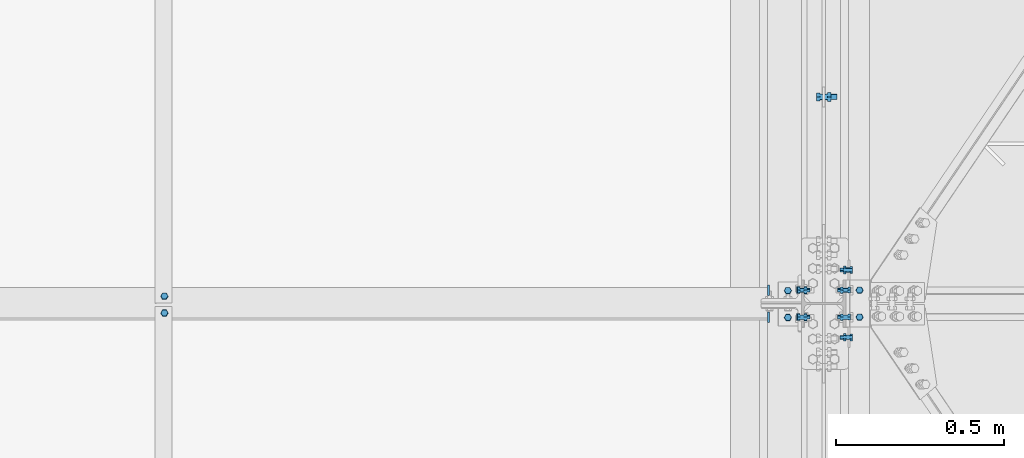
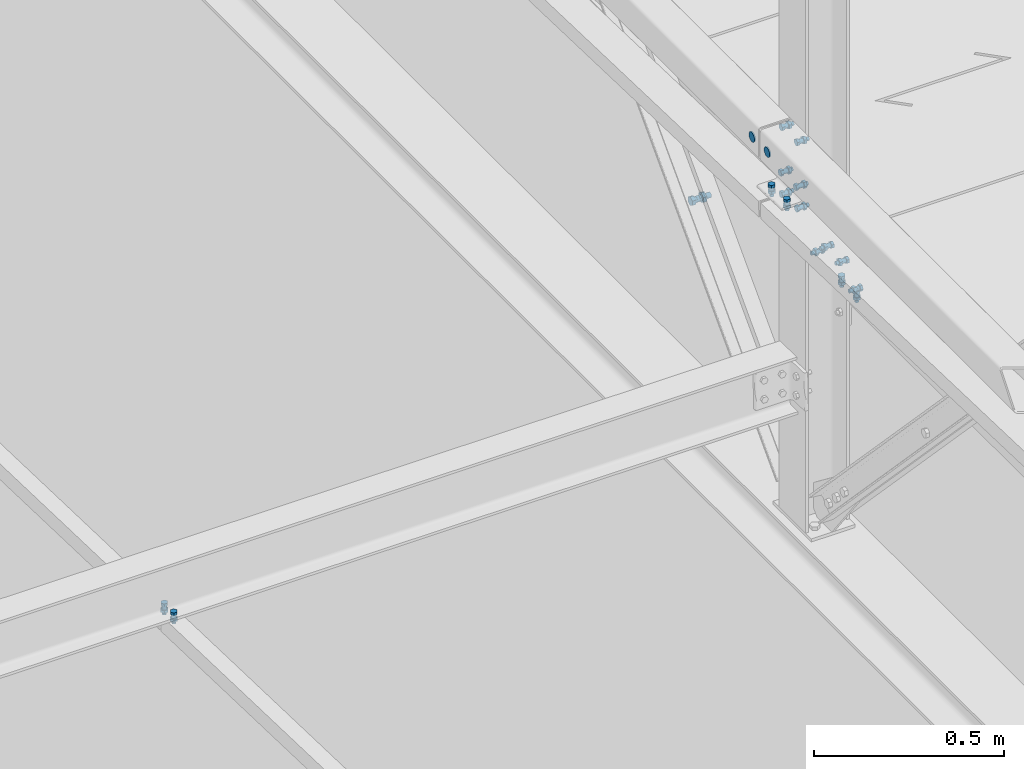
# One storey, part 280 of 362: 19 mechanical fasteners.
"""IFC2X3 building model written with IfcOpenShell, lengths in millimetres."""

import ifcopenshell
import ifcopenshell.guid

model = None  # the IFC model being written
_history = None  # IfcOwnerHistory: only IFC2X3 demands one
_inside = {}  # id of a spatial element -> (the spatial element, [elements in it])
_under = {}  # id of a project, library or spatial element -> (it, [spatial elements below it])
_declared = {}  # id of a project -> (the project, [libraries it declares])
_typed = {}  # id of a type object -> (the type object, [elements of that type])
_made_of = {}  # id of a material, layer set ... -> (it, [elements and type objects made of it])


def new_model(schema):
    """Start an empty IFC model of exactly this schema.

    Asked for "IFC4X3", IfcOpenShell would pick the latest addendum, in which some entities
    have other attributes; the version numbers below select the first issue.
    IFC2X3 requires an IfcOwnerHistory on every rooted entity: one is made here for all.
    """
    global model, _history
    if schema == "IFC4X3":
        model = ifcopenshell.file(schema_version=(4, 3, 0, 0))
    else:
        model = ifcopenshell.file(schema=schema)
    _inside.clear()
    _under.clear()
    _declared.clear()
    _typed.clear()
    _made_of.clear()
    _history = None
    if model.schema == "IFC2X3":
        org = make("IfcOrganization", Name="unknown")
        user = make(
            "IfcPersonAndOrganization",
            ThePerson=make("IfcPerson", FamilyName="unknown"),
            TheOrganization=org,
        )
        app = make(
            "IfcApplication",
            ApplicationDeveloper=org,
            Version="unknown",
            ApplicationFullName="unknown",
            ApplicationIdentifier="unknown",
        )
        _history = make(
            "IfcOwnerHistory",
            OwningUser=user,
            OwningApplication=app,
            ChangeAction="ADDED",
            CreationDate=0,
        )
    return model


def make(cls, **values):
    """One entity of the class cls with the attributes given. An attribute that is None is left unset."""
    return model.create_entity(
        cls, **{name: value for name, value in values.items() if value is not None}
    )


def rooted(cls, **values):
    """An entity with a GlobalId (a new one), such as an element, a storey or a relation."""
    return make(cls, GlobalId=ifcopenshell.guid.new(), OwnerHistory=_history, **values)


def si_unit(unit_type, name, prefix=None):
    """IfcSIUnit, for example si_unit("LENGTHUNIT", "METRE", prefix="MILLI")."""
    return make("IfcSIUnit", UnitType=unit_type, Prefix=prefix, Name=name)


def assignment(units):
    """IfcUnitAssignment: the units of a project."""
    return None if units is None else make("IfcUnitAssignment", Units=units)


def point(xyz):
    """IfcCartesianPoint."""
    return None if xyz is None else make("IfcCartesianPoint", Coordinates=xyz)


def direction(xyz):
    """IfcDirection."""
    return None if xyz is None else make("IfcDirection", DirectionRatios=xyz)


def frame(location, z_axis=None, x_axis=None):
    """IfcAxis2Placement3D, a coordinate frame: its origin and axes. An axis left out is left unset."""
    return make(
        "IfcAxis2Placement3D",
        Location=point(location),
        Axis=direction(z_axis),
        RefDirection=direction(x_axis),
    )


def frame_2d(location, x_axis=None):
    """IfcAxis2Placement2D, a coordinate frame in the plane: its origin and x axis."""
    return make(
        "IfcAxis2Placement2D", Location=point(location), RefDirection=direction(x_axis)
    )


def origin_with_axes():
    """The frame at (0, 0, 0) with the z axis (0, 0, 1) and the x axis (1, 0, 0) written out."""
    return frame((0.0, 0.0, 0.0), z_axis=(0.0, 0.0, 1.0), x_axis=(1.0, 0.0, 0.0))


def origin_2d_with_axis():
    """The frame at (0, 0) in the plane with the x axis (1, 0) written out."""
    return frame_2d((0.0, 0.0), x_axis=(1.0, 0.0))


def place(relative_to, where):
    """IfcLocalPlacement: puts the frame where relative to a parent placement (None: the world)."""
    return make(
        "IfcLocalPlacement", PlacementRelTo=relative_to, RelativePlacement=where
    )


def context(
    kind, dimensions, precision=None, world=None, true_north=None, identifier=None
):
    """IfcGeometricRepresentationContext, for example the 3D "Model" context."""
    return make(
        "IfcGeometricRepresentationContext",
        ContextIdentifier=identifier,
        ContextType=kind,
        CoordinateSpaceDimension=dimensions,
        Precision=precision,
        WorldCoordinateSystem=world,
        TrueNorth=true_north,
    )


def subcontext(parent, identifier, kind, view, scale=None):
    """IfcGeometricRepresentationSubContext, for example "Body" below "Model"."""
    return make(
        "IfcGeometricRepresentationSubContext",
        ContextIdentifier=identifier,
        ContextType=kind,
        ParentContext=parent,
        TargetScale=scale,
        TargetView=view,
    )


def project(units=None, contexts=None):
    """IfcProject with its units and contexts."""
    return rooted(
        "IfcProject",
        Name="project",
        RepresentationContexts=contexts,
        UnitsInContext=assignment(units),
    )


def spatial(cls, under=None, at=None, **own):
    """A site, building, storey or space (cls), placed at a placement, below another one or the project."""
    s = rooted(cls, ObjectPlacement=at, **own)
    if under is not None:
        _under.setdefault(under.id(), (under, []))[1].append(s)
    return s


def polyline(points):
    """IfcPolyline through the points."""
    return make("IfcPolyline", Points=[point(p) for p in points])


def profile(cls, at=None, kind="AREA", **sizes):
    """A parametric profile (cls). Its sizes go by their IFC names, for example OverallWidth=200.0."""
    return make(cls, ProfileType=kind, Position=at, **sizes)


def circle(**sizes):
    """IfcCircleProfileDef."""
    return profile("IfcCircleProfileDef", **sizes)


def outline(outer, holes=None, kind="AREA"):
    """IfcArbitraryClosedProfileDef: a profile drawn as a closed curve; with holes, ...WithVoids."""
    if holes is None:
        return make("IfcArbitraryClosedProfileDef", ProfileType=kind, OuterCurve=outer)
    return make(
        "IfcArbitraryProfileDefWithVoids",
        ProfileType=kind,
        OuterCurve=outer,
        InnerCurves=holes,
    )


def extrude(swept, where, along, depth):
    """IfcExtrudedAreaSolid: the profile swept, set in the frame where, extruded along a direction by depth."""
    return make(
        "IfcExtrudedAreaSolid",
        SweptArea=swept,
        Position=where,
        ExtrudedDirection=direction(along),
        Depth=depth,
    )


def shape(context_of_items, identifier, shape_type, items):
    """IfcShapeRepresentation: the items that make up one representation, for example the "Body"."""
    return make(
        "IfcShapeRepresentation",
        ContextOfItems=context_of_items,
        RepresentationIdentifier=identifier,
        RepresentationType=shape_type,
        Items=items,
    )


def source(mapping_origin, context_of_items, identifier, shape_type, items):
    """IfcRepresentationMap: a shape defined once, which mapped items show again and again."""
    return make(
        "IfcRepresentationMap",
        MappingOrigin=mapping_origin,
        MappedRepresentation=shape(context_of_items, identifier, shape_type, items),
    )


def transform(
    local_origin,
    x_axis=None,
    y_axis=None,
    z_axis=None,
    scale=None,
    scale2=None,
    scale3=None,
    uniform=True,
):
    """IfcCartesianTransformationOperator3D, or its non-uniform kind. x_axis, y_axis, z_axis: its Axis1, 2, 3."""
    if uniform:
        return make(
            "IfcCartesianTransformationOperator3D",
            Axis1=direction(x_axis),
            Axis2=direction(y_axis),
            LocalOrigin=point(local_origin),
            Scale=scale,
            Axis3=direction(z_axis),
        )
    return make(
        "IfcCartesianTransformationOperator3DnonUniform",
        Axis1=direction(x_axis),
        Axis2=direction(y_axis),
        LocalOrigin=point(local_origin),
        Scale=scale,
        Axis3=direction(z_axis),
        Scale2=scale2,
        Scale3=scale3,
    )


def mapped(mapping_source, mapping_target):
    """IfcMappedItem: shows the shape of a source again, moved by a transform."""
    return make(
        "IfcMappedItem", MappingSource=mapping_source, MappingTarget=mapping_target
    )


def material(Name=None, Category=None):
    """IfcMaterial."""
    return make("IfcMaterial", Name=Name, Category=Category)


def made_of(thing, what):
    """Note that an element or type object is made of a material, layer set ...; save() writes the relation."""
    if what is not None:
        _made_of.setdefault(what.id(), (what, []))[1].append(thing)
    return thing


def type_object(cls, material=None, **own):
    """A type object (cls), such as IfcWallType, which elements share."""
    return made_of(rooted(cls, **own), material)


def element(
    cls,
    number,
    at=None,
    inside=None,
    cuts=None,
    type_object=None,
    material=None,
    context=None,
    identifier="Body",
    shape_type=None,
    held_by="IfcProductDefinitionShape",
    body=None,
    shapes=None,
    **own,
):
    """One element of the class cls, such as IfcWall. Its Tag is "e" and its number.

    at: its placement. inside: the storey or other place that contains it. cuts: it is an
    opening in that element (IfcRelVoidsElement). A single representation is given by context,
    identifier, shape_type and body (its items); several are given by shapes. held_by: the class
    of the entity that holds the representations. save() writes the other relations.
    """
    e = rooted(cls, Tag="e%d" % number, ObjectPlacement=at, **own)
    if body is not None:
        shapes = [shape(context, identifier, shape_type, body)]
    if shapes is not None:
        e.Representation = make(held_by, Representations=shapes)
    if inside is not None:
        _inside.setdefault(inside.id(), (inside, []))[1].append(e)
    if cuts is not None:
        rooted(
            "IfcRelVoidsElement", RelatingBuildingElement=cuts, RelatedOpeningElement=e
        )
    if type_object is not None:
        _typed.setdefault(type_object.id(), (type_object, []))[1].append(e)
    return made_of(e, material)


def aggregate(whole, parts):
    """IfcRelAggregates: a whole, such as a stair, and the parts it consists of."""
    return rooted("IfcRelAggregates", RelatingObject=whole, RelatedObjects=parts)


def save(model, path):
    """Write the relations noted so far, then the file.

    IfcRelAggregates (storeys below a building ...), IfcRelContainedInSpatialStructure (elements
    in a storey), IfcRelDefinesByType, IfcRelAssociatesMaterial and IfcRelDeclares: one each for
    every whole, place, type object, material and project.
    """
    for whole, parts in _under.values():
        aggregate(whole, parts)
    for where, things in _inside.values():
        rooted(
            "IfcRelContainedInSpatialStructure",
            RelatedElements=things,
            RelatingStructure=where,
        )
    for kind, things in _typed.values():
        rooted("IfcRelDefinesByType", RelatedObjects=things, RelatingType=kind)
    for what, things in _made_of.values():
        rooted("IfcRelAssociatesMaterial", RelatedObjects=things, RelatingMaterial=what)
    for by, libraries in _declared.values():
        rooted("IfcRelDeclares", RelatingContext=by, RelatedDefinitions=libraries)
    model.write(path)


model = new_model("IFC2X3")

# Units and contexts
model_context = context("Model", 3, precision=1e-05, world=origin_with_axes())
body_context = subcontext(model_context, "Body", "Model", "MODEL_VIEW")
ifc_project = project(units=[si_unit("LENGTHUNIT", "METRE", prefix="MILLI"), si_unit("AREAUNIT", "SQUARE_METRE"), si_unit("VOLUMEUNIT", "CUBIC_METRE"), si_unit("MASSUNIT", "GRAM", prefix="KILO"), si_unit("TIMEUNIT", "SECOND"), si_unit("PLANEANGLEUNIT", "RADIAN"), si_unit("SOLIDANGLEUNIT", "STERADIAN"), si_unit("THERMODYNAMICTEMPERATUREUNIT", "DEGREE_CELSIUS"), si_unit("LUMINOUSINTENSITYUNIT", "LUMEN")], contexts=[model_context])

# Site, building, storey
site_placement = place(None, origin_with_axes())
site = spatial("IfcSite", under=ifc_project, at=site_placement, Name="Undefined", CompositionType="ELEMENT")
building_placement = place(site_placement, origin_with_axes())
building = spatial("IfcBuilding", under=site, at=building_placement, Name="Undefined", CompositionType="ELEMENT")
storey_placement = place(building_placement, origin_with_axes())
storey = spatial("IfcBuildingStorey", under=building, at=storey_placement, Name="Undefined", CompositionType="ELEMENT", Elevation=0.0)

# Mechanical fasteners
ifc_material_1 = material(Name="8.8-SB-ZINGUE")
mechanical_fastener_type = type_object("IfcMechanicalFastenerType", Name="Bolt assembly")
shared_shape_1 = source(origin_with_axes(), body_context, "Body", "SweptSolid", [
    extrude(circle(Radius=9.0, at=origin_2d_with_axis()), frame((0.0, -10.9000000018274, 0.0), z_axis=(0.0, 1.0, 0.0), x_axis=(1.0, 0.0, 0.0)), (0.0, 0.0, 1.0), 6.0),
    extrude(circle(Radius=9.0, at=origin_2d_with_axis()), frame((0.0, 4.9000000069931, 0.0), z_axis=(0.0, 1.0, 0.0), x_axis=(1.0, 0.0, 0.0)), (0.0, 0.0, 1.0), 6.1),
    extrude(circle(Radius=9.0, at=origin_2d_with_axis()), frame((0.0, -3.99999923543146, 0.0), z_axis=(0.0, 1.0, 0.0), x_axis=(1.0, 0.0, 0.0)), (0.0, 0.0, 1.0), 8.0),
    extrude(outline(polyline([(13.85640646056, 0.0), (6.92820323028, 12.0000000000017), (-6.92820323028, 12.0000000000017), (-13.85640646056, 0.0), (-6.92820323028, -12.0000000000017), (6.92820323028, -12.0000000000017), (13.85640646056, 0.0)])), frame((0.0, -21.5600000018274, 0.0), z_axis=(0.0, 1.0, 0.0), x_axis=(1.0, 0.0, 0.0)), (0.0, 0.0, 1.0), 10.56),
    extrude(circle(Radius=8.0, at=origin_2d_with_axis()), frame((0.0, -11.0000000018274, 0.0), z_axis=(0.0, 1.0, 0.0), x_axis=(1.0, 0.0, 0.0)), (0.0, 0.0, 1.0), 50.0),
    extrude(outline(polyline([(15.3344231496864, 0.0), (7.6672115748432, 13.2800000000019), (-7.6672115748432, 13.2800000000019), (-15.3344231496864, 0.0), (-7.6672115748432, -13.2800000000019), (7.6672115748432, -13.2800000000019), (15.3344231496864, 0.0)])), frame((0.0, 11.0000000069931, 0.0), z_axis=(0.0, 1.0, 0.0), x_axis=(1.0, 0.0, 0.0)), (0.0, 0.0, 1.0), 10.56),
])
mechanical_fastener_1_placement = place(storey_placement, frame((23470.0, 8214.72861217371, 7894.81795332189), z_axis=(0.0, 1.0, 0.0), x_axis=(0.0, 0.0, 1.0)))
element("IfcMechanicalFastener", 1, at=mechanical_fastener_1_placement, inside=storey, type_object=mechanical_fastener_type, material=ifc_material_1, Name="Bolt assembly", NominalDiameter=16.0, NominalLength=50.0, context=body_context, shape_type="MappedRepresentation", body=[
    mapped(shared_shape_1, transform((0.0, 0.0, 0.0))),
])
shared_shape_2 = source(origin_with_axes(), body_context, "Body", "SweptSolid", [
    extrude(circle(Radius=7.0, at=origin_2d_with_axis()), frame((0.0, -7.9, 0.0), z_axis=(0.0, 1.0, 0.0), x_axis=(1.0, 0.0, 0.0)), (0.0, 0.0, 1.0), 8.0),
    extrude(circle(Radius=7.0, at=origin_2d_with_axis()), frame((0.0, -0.100011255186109, 0.0), z_axis=(0.0, 1.0, 0.0), x_axis=(1.0, 0.0, 0.0)), (0.0, 0.0, 1.0), 5.1),
    extrude(outline(polyline([(10.39230484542, 0.0), (5.19615242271, 9.00000000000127), (-5.19615242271, 9.00000000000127), (-10.39230484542, 0.0), (-5.19615242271, -9.00000000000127), (5.19615242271, -9.00000000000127), (10.39230484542, 0.0)])), frame((0.0, -15.92, 0.0), z_axis=(0.0, 1.0, 0.0), x_axis=(1.0, 0.0, 0.0)), (0.0, 0.0, 1.0), 7.92),
    extrude(circle(Radius=6.0, at=origin_2d_with_axis()), frame((0.0, -8.0, 0.0), z_axis=(0.0, 1.0, 0.0), x_axis=(1.0, 0.0, 0.0)), (0.0, 0.0, 1.0), 30.0),
    extrude(outline(polyline([(11.5008173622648, 0.0), (5.7504086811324, 9.96000000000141), (-5.7504086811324, 9.96000000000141), (-11.5008173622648, 0.0), (-5.7504086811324, -9.96000000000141), (5.7504086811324, -9.96000000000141), (11.5008173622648, 0.0)])), frame((0.0, 5.0, 0.0), z_axis=(0.0, 1.0, 0.0), x_axis=(1.0, 0.0, 0.0)), (0.0, 0.0, 1.0), 7.92),
])
for number, where, z_axis, x_axis, name in (
    (2, (21510.0000126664, 7572.18534571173, 7631.94559920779), (0.0, -0.999506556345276, 0.031410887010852), (-1.0, 0.0, 0.0), "Bolt assembly"),
    (3, (21510.0000126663, 7622.16464019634, 7630.37491363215), (0.0, -0.999506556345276, 0.031410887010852), (-1.0, 0.0, 0.0), "Bolt assembly"),
):
    element("IfcMechanicalFastener", number, at=place(storey_placement, frame(where, z_axis=z_axis, x_axis=x_axis)), inside=storey, type_object=mechanical_fastener_type, material=ifc_material_1, Name=name, NominalDiameter=12.0, NominalLength=30.0, context=body_context, shape_type="MappedRepresentation", body=[
        mapped(shared_shape_2, transform((0.0, 0.0, 0.0))),
    ])
shared_shape_3 = source(origin_with_axes(), body_context, "Body", "SweptSolid", [
    extrude(circle(Radius=7.0, at=origin_2d_with_axis()), frame((0.0, -4.90000000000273, 0.0), z_axis=(0.0, 1.0, 0.0), x_axis=(1.0, 0.0, 0.0)), (0.0, 0.0, 1.0), 5.0),
    extrude(circle(Radius=7.0, at=origin_2d_with_axis()), frame((0.0, -0.100011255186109, 0.0), z_axis=(0.0, 1.0, 0.0), x_axis=(1.0, 0.0, 0.0)), (0.0, 0.0, 1.0), 7.1),
    extrude(outline(polyline([(10.39230484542, 0.0), (5.19615242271, 9.00000000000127), (-5.19615242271, 9.00000000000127), (-10.39230484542, 0.0), (-5.19615242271, -9.00000000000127), (5.19615242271, -9.00000000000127), (10.39230484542, 0.0)])), frame((0.0, -12.9200004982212, 0.0), z_axis=(0.0, 1.0, 0.0), x_axis=(1.0, 0.0, 0.0)), (0.0, 0.0, 1.0), 7.92),
    extrude(circle(Radius=6.0, at=origin_2d_with_axis()), frame((0.0, -5.00000000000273, 0.0), z_axis=(0.0, 1.0, 0.0), x_axis=(1.0, 0.0, 0.0)), (0.0, 0.0, 1.0), 30.0),
    extrude(outline(polyline([(11.5008173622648, 0.0), (5.7504086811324, 9.96000000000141), (-5.7504086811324, 9.96000000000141), (-11.5008173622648, 0.0), (-5.7504086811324, -9.96000000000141), (5.7504086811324, -9.96000000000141), (11.5008173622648, 0.0)])), frame((0.0, 7.0, 0.0), z_axis=(0.0, 1.0, 0.0), x_axis=(1.0, 0.0, 0.0)), (0.0, 0.0, 1.0), 7.92),
])
for number, where, z_axis, x_axis, name in (
    (4, (23576.49994422, 7639.99999998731, 7950.00000000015), (0.0, -1.0, 0.0), (-1.0, 0.0, 0.0), "Bolt assembly"),
    (5, (23576.49994422, 7559.99999998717, 7950.00000000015), (0.0, -1.0, 0.0), (-1.0, 0.0, 0.0), "Bolt assembly"),
):
    element("IfcMechanicalFastener", number, at=place(storey_placement, frame(where, z_axis=z_axis, x_axis=x_axis)), inside=storey, type_object=mechanical_fastener_type, material=ifc_material_1, Name=name, NominalDiameter=12.0, NominalLength=30.0, context=body_context, shape_type="MappedRepresentation", body=[
        mapped(shared_shape_3, transform((0.0, 0.0, 0.0))),
    ])
shared_shape_4 = source(origin_with_axes(), body_context, "Body", "SweptSolid", [
    extrude(circle(Radius=7.0, at=origin_2d_with_axis()), frame((0.0, -0.108112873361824, 0.0), z_axis=(0.0, 1.0, 0.0), x_axis=(1.0, 0.0, 0.0)), (0.0, 0.0, 1.0), 5.1),
    extrude(circle(Radius=7.0, at=origin_2d_with_axis()), frame((0.0, -6.4, 0.0), z_axis=(0.0, 1.0, 0.0), x_axis=(1.0, 0.0, 0.0)), (0.0, 0.0, 1.0), 6.0),
    extrude(outline(polyline([(10.39230484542, 0.0), (5.19615242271, 9.00000000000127), (-5.19615242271, 9.00000000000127), (-10.39230484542, 0.0), (-5.19615242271, -9.00000000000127), (5.19615242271, -9.00000000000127), (10.39230484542, 0.0)])), frame((0.0, -14.42, 0.0), z_axis=(0.0, 1.0, 0.0), x_axis=(1.0, 0.0, 0.0)), (0.0, 0.0, 1.0), 7.92),
    extrude(circle(Radius=6.0, at=origin_2d_with_axis()), frame((0.0, -6.5, 0.0), z_axis=(0.0, 1.0, 0.0), x_axis=(1.0, 0.0, 0.0)), (0.0, 0.0, 1.0), 30.0),
    extrude(outline(polyline([(11.5008173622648, 0.0), (5.7504086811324, 9.96000000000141), (-5.7504086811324, 9.96000000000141), (-11.5008173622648, 0.0), (-5.7504086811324, -9.96000000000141), (5.7504086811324, -9.96000000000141), (11.5008173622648, 0.0)])), frame((0.0, 4.99188712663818, 0.0), z_axis=(0.0, 1.0, 0.0), x_axis=(1.0, 0.0, 0.0)), (0.0, 0.0, 1.0), 7.92),
])
for number, where, z_axis, x_axis, name in (
    (6, (23541.4918295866, 7699.99999998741, 8015.00000000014), (0.0, 0.0, -1.0), (0.0, -1.0, 0.0), "Bolt assembly"),
    (7, (23541.4918295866, 7499.99999998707, 8015.00000000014), (0.0, 0.0, 1.0), (0.0, 1.0, 0.0), "Bolt assembly"),
):
    element("IfcMechanicalFastener", number, at=place(storey_placement, frame(where, z_axis=z_axis, x_axis=x_axis)), inside=storey, type_object=mechanical_fastener_type, material=ifc_material_1, Name=name, NominalDiameter=12.0, NominalLength=30.0, context=body_context, shape_type="MappedRepresentation", body=[
        mapped(shared_shape_4, transform((0.0, 0.0, 0.0))),
    ])
shared_shape_5 = source(origin_with_axes(), body_context, "Body", "SweptSolid", [
    extrude(circle(Radius=7.0, at=origin_2d_with_axis()), frame((0.0, -0.10007666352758, 0.0), z_axis=(0.0, 1.0, 0.0), x_axis=(1.0, 0.0, 0.0)), (0.0, 0.0, 1.0), 8.6),
    extrude(circle(Radius=7.0, at=origin_2d_with_axis()), frame((0.0, -4.90000000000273, 0.0), z_axis=(0.0, 1.0, 0.0), x_axis=(1.0, 0.0, 0.0)), (0.0, 0.0, 1.0), 5.0),
    extrude(outline(polyline([(10.39230484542, 0.0), (5.19615242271, 9.00000000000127), (-5.19615242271, 9.00000000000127), (-10.39230484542, 0.0), (-5.19615242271, -9.00000000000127), (5.19615242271, -9.00000000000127), (10.39230484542, 0.0)])), frame((0.0, -12.9200004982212, 0.0), z_axis=(0.0, 1.0, 0.0), x_axis=(1.0, 0.0, 0.0)), (0.0, 0.0, 1.0), 7.92),
    extrude(circle(Radius=6.0, at=origin_2d_with_axis()), frame((0.0, -5.00000000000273, 0.0), z_axis=(0.0, 1.0, 0.0), x_axis=(1.0, 0.0, 0.0)), (0.0, 0.0, 1.0), 30.0),
    extrude(outline(polyline([(11.5008173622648, 0.0), (5.7504086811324, 9.96000000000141), (-5.7504086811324, 9.96000000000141), (-11.5008173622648, 0.0), (-5.7504086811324, -9.96000000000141), (5.7504086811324, -9.96000000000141), (11.5008173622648, 0.0)])), frame((0.0, 8.49994421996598, 0.0), z_axis=(0.0, 1.0, 0.0), x_axis=(1.0, 0.0, 0.0)), (0.0, 0.0, 1.0), 7.92),
])
for number, where, z_axis, x_axis, name in (
    (8, (23536.49994422, 7560.00000098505, 8070.00000000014), (0.0, 1.0, 0.0), (0.0, 0.0, -1.0), "Bolt assembly"),
    (9, (23536.49994422, 7640.00000098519, 8070.00000000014), (0.0, 1.0, 0.0), (0.0, 0.0, -1.0), "Bolt assembly"),
):
    element("IfcMechanicalFastener", number, at=place(storey_placement, frame(where, z_axis=z_axis, x_axis=x_axis)), inside=storey, type_object=mechanical_fastener_type, material=ifc_material_1, Name=name, NominalDiameter=12.0, NominalLength=30.0, context=body_context, shape_type="MappedRepresentation", body=[
        mapped(shared_shape_5, transform((0.0, 0.0, 0.0))),
    ])
ifc_material_2 = material(Name="6.8")
shared_shape_6 = source(origin_with_axes(), body_context, "Body", "SweptSolid", [
    extrude(circle(Radius=15.0, at=origin_2d_with_axis()), frame((0.0, -0.000130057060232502, 0.0), z_axis=(0.0, 1.0, 0.0), x_axis=(1.0, 0.0, 0.0)), (0.0, 0.0, 1.0), 4.1),
])
for number, where, z_axis, x_axis, name in (
    (10, (23303.5001162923, 7639.99203703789, 8500.0), (0.0, -1.0, 0.0), (0.0, 0.0, -1.0), "Bolt assembly"),
    (11, (23303.5001162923, 7560.0, 8500.0), (0.0, -1.0, 0.0), (0.0, 0.0, -1.0), "Bolt assembly"),
):
    element("IfcMechanicalFastener", number, at=place(storey_placement, frame(where, z_axis=z_axis, x_axis=x_axis)), inside=storey, type_object=mechanical_fastener_type, material=ifc_material_2, Name=name, NominalDiameter=30.0, NominalLength=4.0, context=body_context, shape_type="MappedRepresentation", body=[
        mapped(shared_shape_6, transform((0.0, 0.0, 0.0))),
    ])
shared_shape_7 = source(origin_with_axes(), body_context, "Body", "SweptSolid", [
    extrude(circle(Radius=7.0, at=origin_2d_with_axis()), frame((0.0, -1.35617756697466, 0.0), z_axis=(0.0, 1.0, 0.0), x_axis=(1.0, 0.0, 0.0)), (0.0, 0.0, 1.0), 4.1),
    extrude(circle(Radius=7.0, at=origin_2d_with_axis()), frame((0.0, -8.15617756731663, 0.0), z_axis=(0.0, 1.0, 0.0), x_axis=(1.0, 0.0, 0.0)), (0.0, 0.0, 1.0), 7.0),
    extrude(outline(polyline([(10.39230484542, 0.0), (5.19615242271, 9.00000000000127), (-5.19615242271, 9.00000000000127), (-10.39230484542, 0.0), (-5.19615242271, -9.00000000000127), (5.19615242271, -9.00000000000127), (10.39230484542, 0.0)])), frame((0.0, -16.1761775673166, 0.0), z_axis=(0.0, 1.0, 0.0), x_axis=(1.0, 0.0, 0.0)), (0.0, 0.0, 1.0), 7.92),
    extrude(circle(Radius=6.0, at=origin_2d_with_axis()), frame((0.0, -8.25617756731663, 0.0), z_axis=(0.0, 1.0, 0.0), x_axis=(1.0, 0.0, 0.0)), (0.0, 0.0, 1.0), 30.0),
    extrude(outline(polyline([(11.5008173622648, 0.0), (5.7504086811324, 9.96000000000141), (-5.7504086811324, 9.96000000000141), (-11.5008173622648, 0.0), (-5.7504086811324, -9.96000000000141), (5.7504086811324, -9.96000000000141), (11.5008173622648, 0.0)])), frame((0.0, 2.74382243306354, 0.0), z_axis=(0.0, 1.0, 0.0), x_axis=(1.0, 0.0, 0.0)), (0.0, 0.0, 1.0), 7.92),
])
mechanical_fastener_2_placement = place(storey_placement, frame((23363.5001163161, 7638.67387848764, 8313.96238210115), z_axis=(0.0, 0.999506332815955, -0.0314179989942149), x_axis=(1.0, 0.0, 0.0)))
element("IfcMechanicalFastener", 12, at=mechanical_fastener_2_placement, inside=storey, type_object=mechanical_fastener_type, material=ifc_material_1, Name="Bolt assembly", NominalDiameter=12.0, NominalLength=30.0, context=body_context, shape_type="MappedRepresentation", body=[
    mapped(shared_shape_7, transform((0.0, 0.0, 0.0))),
])
shared_shape_8 = source(origin_with_axes(), body_context, "Body", "SweptSolid", [
    extrude(circle(Radius=7.0, at=origin_2d_with_axis()), frame((0.0, -1.35662777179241, 0.0), z_axis=(0.0, 1.0, 0.0), x_axis=(1.0, 0.0, 0.0)), (0.0, 0.0, 1.0), 4.1),
    extrude(circle(Radius=7.0, at=origin_2d_with_axis()), frame((0.0, -8.15654244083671, 0.0), z_axis=(0.0, 1.0, 0.0), x_axis=(1.0, 0.0, 0.0)), (0.0, 0.0, 1.0), 7.0),
    extrude(outline(polyline([(10.39230484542, 0.0), (5.19615242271, 9.00000000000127), (-5.19615242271, 9.00000000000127), (-10.39230484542, 0.0), (-5.19615242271, -9.00000000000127), (5.19615242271, -9.00000000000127), (10.39230484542, 0.0)])), frame((0.0, -16.1765424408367, 0.0), z_axis=(0.0, 1.0, 0.0), x_axis=(1.0, 0.0, 0.0)), (0.0, 0.0, 1.0), 7.92),
    extrude(circle(Radius=6.0, at=origin_2d_with_axis()), frame((0.0, -8.25654244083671, 0.0), z_axis=(0.0, 1.0, 0.0), x_axis=(1.0, 0.0, 0.0)), (0.0, 0.0, 1.0), 30.0),
    extrude(outline(polyline([(11.5008173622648, 0.0), (5.7504086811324, 9.96000000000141), (-5.7504086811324, 9.96000000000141), (-11.5008173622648, 0.0), (-5.7504086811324, -9.96000000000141), (5.7504086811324, -9.96000000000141), (11.5008173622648, 0.0)])), frame((0.0, 2.74337222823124, 0.0), z_axis=(0.0, 1.0, 0.0), x_axis=(1.0, 0.0, 0.0)), (0.0, 0.0, 1.0), 7.92),
])
mechanical_fastener_3_placement = place(storey_placement, frame((23363.5001163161, 7558.74345571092, 8316.47415607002), z_axis=(3.14103090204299e-11, 0.999506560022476, -0.0314107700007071), x_axis=(1.0, 0.0, 0.0)))
element("IfcMechanicalFastener", 13, at=mechanical_fastener_3_placement, inside=storey, type_object=mechanical_fastener_type, material=ifc_material_1, Name="Bolt assembly", NominalDiameter=12.0, NominalLength=30.0, context=body_context, shape_type="MappedRepresentation", body=[
    mapped(shared_shape_8, transform((0.0, 0.0, 0.0))),
])
shared_shape_9 = source(origin_with_axes(), body_context, "Body", "SweptSolid", [
    extrude(circle(Radius=7.0, at=origin_2d_with_axis()), frame((0.0, -0.10007666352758, 0.0), z_axis=(0.0, 1.0, 0.0), x_axis=(1.0, 0.0, 0.0)), (0.0, 0.0, 1.0), 8.6),
    extrude(circle(Radius=7.0, at=origin_2d_with_axis()), frame((0.0, -6.9, 0.0), z_axis=(0.0, 1.0, 0.0), x_axis=(1.0, 0.0, 0.0)), (0.0, 0.0, 1.0), 7.0),
    extrude(outline(polyline([(10.39230484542, 0.0), (5.19615242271, 9.00000000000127), (-5.19615242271, 9.00000000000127), (-10.39230484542, 0.0), (-5.19615242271, -9.00000000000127), (5.19615242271, -9.00000000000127), (10.39230484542, 0.0)])), frame((0.0, -14.92, 0.0), z_axis=(0.0, 1.0, 0.0), x_axis=(1.0, 0.0, 0.0)), (0.0, 0.0, 1.0), 7.92),
    extrude(circle(Radius=6.0, at=origin_2d_with_axis()), frame((0.0, -7.0, 0.0), z_axis=(0.0, 1.0, 0.0), x_axis=(1.0, 0.0, 0.0)), (0.0, 0.0, 1.0), 30.0),
    extrude(outline(polyline([(11.5008173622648, 0.0), (5.7504086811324, 9.96000000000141), (-5.7504086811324, 9.96000000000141), (-11.5008173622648, 0.0), (-5.7504086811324, -9.96000000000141), (5.7504086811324, -9.96000000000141), (11.5008173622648, 0.0)])), frame((0.0, 8.49988372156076, 0.0), z_axis=(0.0, 1.0, 0.0), x_axis=(1.0, 0.0, 0.0)), (0.0, 0.0, 1.0), 7.92),
])
for number, where, z_axis, x_axis, name in (
    (14, (23403.5001162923, 7639.99999815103, 8355.19725207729), (0.0, 0.0, -1.0), (0.0, 1.0, 0.0), "Bolt assembly"),
    (15, (23403.5001162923, 7559.99999815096, 8357.71157784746), (0.0, 0.0, 1.0), (0.0, -1.0, 0.0), "Bolt assembly"),
):
    element("IfcMechanicalFastener", number, at=place(storey_placement, frame(where, z_axis=z_axis, x_axis=x_axis)), inside=storey, type_object=mechanical_fastener_type, material=ifc_material_1, Name=name, NominalDiameter=12.0, NominalLength=30.0, context=body_context, shape_type="MappedRepresentation", body=[
        mapped(shared_shape_9, transform((0.0, 0.0, 0.0))),
    ])
shared_shape_10 = source(origin_with_axes(), body_context, "Body", "SweptSolid", [
    extrude(circle(Radius=7.0, at=origin_2d_with_axis()), frame((0.0, -0.10007666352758, 0.0), z_axis=(0.0, 1.0, 0.0), x_axis=(1.0, 0.0, 0.0)), (0.0, 0.0, 1.0), 8.6),
    extrude(circle(Radius=7.0, at=origin_2d_with_axis()), frame((0.0, -3.89999843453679, 0.0), z_axis=(0.0, 1.0, 0.0), x_axis=(1.0, 0.0, 0.0)), (0.0, 0.0, 1.0), 4.0),
    extrude(outline(polyline([(10.39230484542, 0.0), (5.19615242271, 9.00000000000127), (-5.19615242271, 9.00000000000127), (-10.39230484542, 0.0), (-5.19615242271, -9.00000000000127), (5.19615242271, -9.00000000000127), (10.39230484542, 0.0)])), frame((0.0, -11.9199984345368, 0.0), z_axis=(0.0, 1.0, 0.0), x_axis=(1.0, 0.0, 0.0)), (0.0, 0.0, 1.0), 7.92),
    extrude(circle(Radius=6.0, at=origin_2d_with_axis()), frame((0.0, -3.99999923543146, 0.0), z_axis=(0.0, 1.0, 0.0), x_axis=(1.0, 0.0, 0.0)), (0.0, 0.0, 1.0), 30.0),
    extrude(outline(polyline([(11.5008173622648, 0.0), (5.7504086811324, 9.96000000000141), (-5.7504086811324, 9.96000000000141), (-11.5008173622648, 0.0), (-5.7504086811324, -9.96000000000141), (5.7504086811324, -9.96000000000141), (11.5008173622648, 0.0)])), frame((0.0, 8.49988372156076, 0.0), z_axis=(0.0, 1.0, 0.0), x_axis=(1.0, 0.0, 0.0)), (0.0, 0.0, 1.0), 7.92),
])
for number, where, z_axis, x_axis, name in (
    (16, (23403.5001162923, 7639.99989873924, 8285.15958067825), (0.0, 0.0, -1.0), (0.0, 1.0, 0.0), "Bolt assembly"),
    (17, (23403.5001162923, 7559.99989873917, 8287.67390644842), (0.0, 0.0, 1.0), (0.0, -1.0, 0.0), "Bolt assembly"),
):
    element("IfcMechanicalFastener", number, at=place(storey_placement, frame(where, z_axis=z_axis, x_axis=x_axis)), inside=storey, type_object=mechanical_fastener_type, material=ifc_material_1, Name=name, NominalDiameter=12.0, NominalLength=30.0, context=body_context, shape_type="MappedRepresentation", body=[
        mapped(shared_shape_10, transform((0.0, 0.0, 0.0))),
    ])
shared_shape_11 = source(origin_with_axes(), body_context, "Body", "SweptSolid", [
    extrude(circle(Radius=7.0, at=origin_2d_with_axis()), frame((0.0, -0.10007666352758, 0.0), z_axis=(0.0, 1.0, 0.0), x_axis=(1.0, 0.0, 0.0)), (0.0, 0.0, 1.0), 8.6),
    extrude(circle(Radius=7.0, at=origin_2d_with_axis()), frame((0.0, -3.90012822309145, 0.0), z_axis=(0.0, 1.0, 0.0), x_axis=(1.0, 0.0, 0.0)), (0.0, 0.0, 1.0), 4.0),
    extrude(outline(polyline([(10.39230484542, 0.0), (5.19615242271, 9.00000000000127), (-5.19615242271, 9.00000000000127), (-10.39230484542, 0.0), (-5.19615242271, -9.00000000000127), (5.19615242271, -9.00000000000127), (10.39230484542, 0.0)])), frame((0.0, -11.9201282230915, 0.0), z_axis=(0.0, 1.0, 0.0), x_axis=(1.0, 0.0, 0.0)), (0.0, 0.0, 1.0), 7.92),
    extrude(circle(Radius=6.0, at=origin_2d_with_axis()), frame((0.0, -4.00012822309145, 0.0), z_axis=(0.0, 1.0, 0.0), x_axis=(1.0, 0.0, 0.0)), (0.0, 0.0, 1.0), 30.0),
    extrude(outline(polyline([(11.5008173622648, 0.0), (5.7504086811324, 9.96000000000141), (-5.7504086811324, 9.96000000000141), (-11.5008173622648, 0.0), (-5.7504086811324, -9.96000000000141), (5.7504086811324, -9.96000000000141), (11.5008173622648, 0.0)])), frame((0.0, 8.49988372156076, 0.0), z_axis=(0.0, 1.0, 0.0), x_axis=(1.0, 0.0, 0.0)), (0.0, 0.0, 1.0), 7.92),
])
for number, where, z_axis, x_axis, name in (
    (18, (23403.5001162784, 7640.0, 8500.00000188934), (0.0, -1.0, 0.0), (0.0, 0.0, -1.0), "Bolt assembly"),
    (19, (23403.5001162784, 7560.0, 8500.00000188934), (0.0, -1.0, 0.0), (0.0, 0.0, -1.0), "Bolt assembly"),
):
    element("IfcMechanicalFastener", number, at=place(storey_placement, frame(where, z_axis=z_axis, x_axis=x_axis)), inside=storey, type_object=mechanical_fastener_type, material=ifc_material_1, Name=name, NominalDiameter=12.0, NominalLength=30.0, context=body_context, shape_type="MappedRepresentation", body=[
        mapped(shared_shape_11, transform((0.0, 0.0, 0.0))),
    ])

save(model, "model.ifc")
